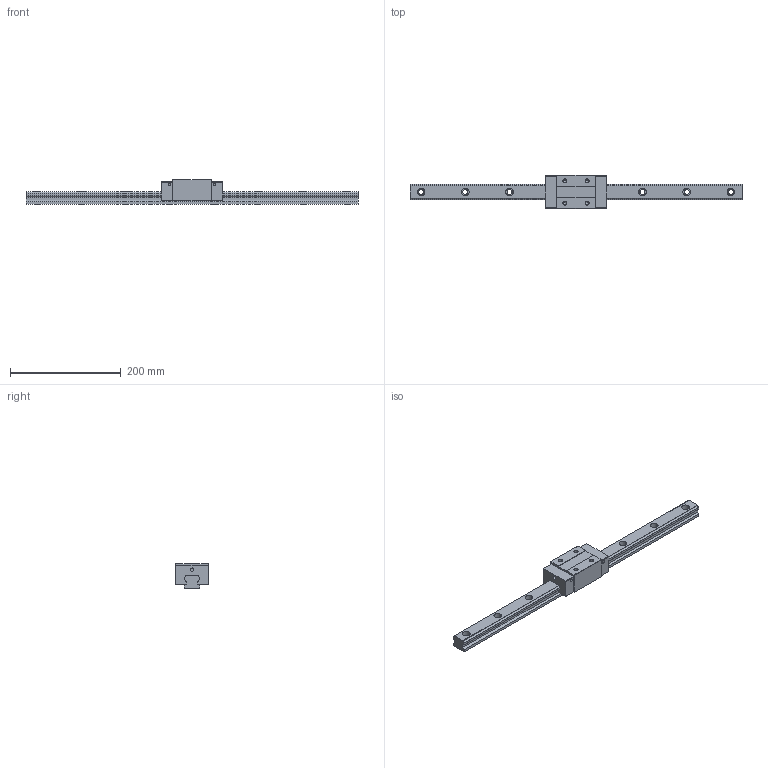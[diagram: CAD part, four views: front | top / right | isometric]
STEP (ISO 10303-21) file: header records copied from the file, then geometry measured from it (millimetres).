
FILE_DESCRIPTION (( 'STEP AP203' ), '1' );
FILE_NAME ('TRH30VN-SZ.STEP', '2024-07-10T02:36:33', ( '' ), ( '' ), 'SwSTEP 2.0', 'SolidWorks 2022', '' );
FILE_SCHEMA (( 'CONFIG_CONTROL_DESIGN' ));
Length unit declared in the file: millimetre
Products named in the file (1): TRH30VN-SZ
Bounding box: 600 x 60 x 45 mm (x, y, z)
Volume: 516396.1 mm3; surface area: 100472.8 mm2
Topology: 2 solids, 2 shells, 186 faces, 488 edges, 316 vertices
Faces by surface type: cylinder 88, plane 82, cone 16
Entity records: 5819 total; most frequent: DIRECTION 1038, CARTESIAN_POINT 983, ORIENTED_EDGE 960, EDGE_CURVE 480, AXIS2_PLACEMENT_3D 371, VERTEX_POINT 316, VECTOR 296, LINE 296
